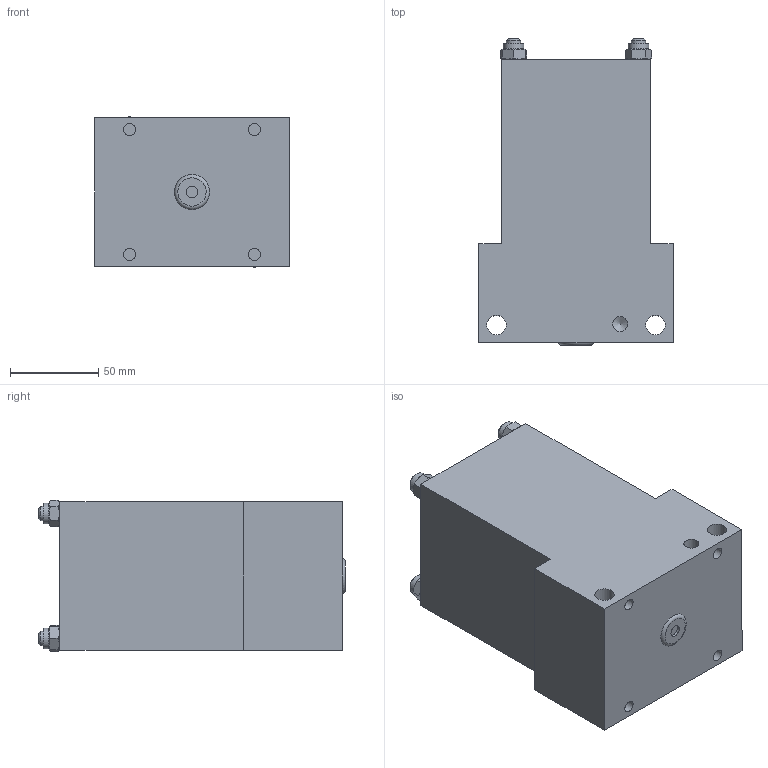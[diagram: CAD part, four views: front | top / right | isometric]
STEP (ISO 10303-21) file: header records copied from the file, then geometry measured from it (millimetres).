
FILE_DESCRIPTION((''),'2;1');
FILE_NAME('C:\VaultWork\Zeichnungen\Maßblätter\Multizylinder\M 75\M75-30\MZ01462-3-1 Maßblatt Multizylinder M75-3-30.stp','2013-06-17T11:19:22',('Sergeew'),(''),'Autodesk Inventor 2012','Autodesk Inventor 2012','');
FILE_SCHEMA(('AUTOMOTIVE_DESIGN { 1 0 10303 214 1 1 1 1 }'));
Length unit declared in the file: millimetre
Products named in the file (1): MZ01462-3-1 Maßblatt Multizylinder M75-3-30
Bounding box: 110 x 173.5 x 85.72 mm (x, y, z)
Volume: 1231045.7 mm3; surface area: 89563.4 mm2
Topology: 1 solids, 5 shells, 108 faces, 235 edges, 156 vertices
Faces by surface type: plane 61, cylinder 25, cone 21, torus 1
Full cylindrical faces by diameter (mm): 6.647 x5, 8 x8, 8.566 x2, 9 x4, 11 x2, 11.6 x4
Entity records: 2577 total; most frequent: CARTESIAN_POINT 501, DIRECTION 402, ORIENTED_EDGE 328, EDGE_LOOP 178, AXIS2_PLACEMENT_3D 177, EDGE_CURVE 164, VERTEX_POINT 132, FACE_OUTER_BOUND 108
